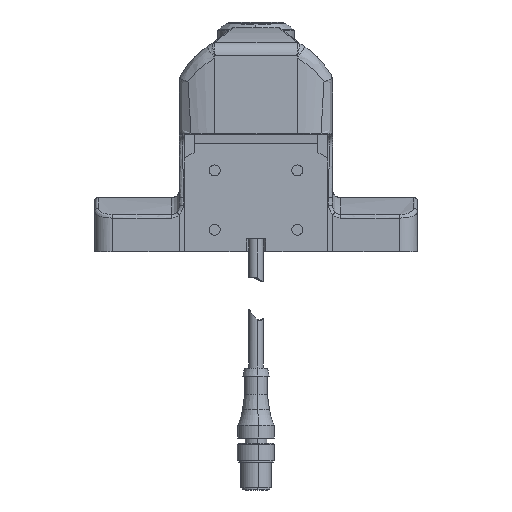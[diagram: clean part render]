
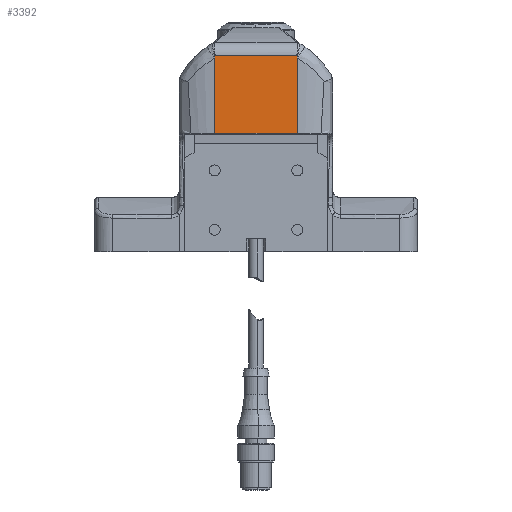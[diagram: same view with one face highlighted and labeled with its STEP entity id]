
A CAD part, left-side view. The second image highlights one B-rep face of the part: STEP entity #3392.
In plain terms, the highlighted planar face has unit normal (-1, 0, 0).
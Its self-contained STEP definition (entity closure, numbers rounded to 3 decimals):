
#4 = CARTESIAN_POINT ( 'NONE',  ( -26., 15.995, 30.781 ) ) ;
#132 = DIRECTION ( 'NONE',  ( 0., 0., 1. ) ) ;
#414 = DIRECTION ( 'NONE',  ( 0., -1., 0. ) ) ;
#625 = CARTESIAN_POINT ( 'NONE',  ( -26., -15.866, 31.5 ) ) ;
#741 = CARTESIAN_POINT ( 'NONE',  ( -26., -15.885, 31.367 ) ) ;
#1246 = EDGE_CURVE ( 'NONE', #11356, #13722, #14891, .T. ) ;
#1261 = CARTESIAN_POINT ( 'NONE',  ( -26., 15.889, 31.367 ) ) ;
#2344 = LINE ( 'NONE', #11087, #6291 ) ;
#2875 = EDGE_CURVE ( 'NONE', #18848, #21818, #9069, .T. ) ;
#3392 = ADVANCED_FACE ( 'NONE', ( #13946 ), #5419, .F. ) ;
#3568 = CARTESIAN_POINT ( 'NONE',  ( -26., 16., 1.5 ) ) ;
#4151 = ORIENTED_EDGE ( 'NONE', *, *, #14384, .T. ) ;
#5243 = LINE ( 'NONE', #3568, #7218 ) ;
#5419 = PLANE ( 'NONE',  #12869 ) ;
#5895 = CARTESIAN_POINT ( 'NONE',  ( -26., 16., 30.648 ) ) ;
#6145 = CARTESIAN_POINT ( 'NONE',  ( -26., 62.541, 31.5 ) ) ;
#6218 = CARTESIAN_POINT ( 'NONE',  ( -26., 16., 1.5 ) ) ;
#6291 = VECTOR ( 'NONE', #132, 1000. ) ;
#6409 = CARTESIAN_POINT ( 'NONE',  ( -26., 15.902, 31.303 ) ) ;
#7166 = CARTESIAN_POINT ( 'NONE',  ( -26., 16., 38.163 ) ) ;
#7218 = VECTOR ( 'NONE', #414, 1000. ) ;
#7697 = EDGE_LOOP ( 'NONE', ( #20365, #12797, #15917, #15296, #4151, #20386 ) ) ;
#8087 = CARTESIAN_POINT ( 'NONE',  ( -26., 15.895, 31.333 ) ) ;
#8299 = CARTESIAN_POINT ( 'NONE',  ( -26., 15.946, 31.09 ) ) ;
#8405 = CARTESIAN_POINT ( 'NONE',  ( -26., 15.977, 30.928 ) ) ;
#9069 = LINE ( 'NONE', #7166, #13221 ) ;
#9265 = CARTESIAN_POINT ( 'NONE',  ( -26., -15.973, 30.947 ) ) ;
#9780 = CARTESIAN_POINT ( 'NONE',  ( -26., 15.87, 31.474 ) ) ;
#9995 = EDGE_CURVE ( 'NONE', #13722, #14604, #16876, .T. ) ;
#10003 = CARTESIAN_POINT ( 'NONE',  ( -26., 15.946, 31.089 ) ) ;
#10031 = CARTESIAN_POINT ( 'NONE',  ( -26., -16., 1.5 ) ) ;
#11087 = CARTESIAN_POINT ( 'NONE',  ( -26., -16., 38.163 ) ) ;
#11356 = VERTEX_POINT ( 'NONE', #11575 ) ;
#11575 = CARTESIAN_POINT ( 'NONE',  ( -26., 15.866, 31.5 ) ) ;
#12260 = DIRECTION ( 'NONE',  ( 1., 0., 0. ) ) ;
#12797 = ORIENTED_EDGE ( 'NONE', *, *, #17910, .T. ) ;
#12869 = AXIS2_PLACEMENT_3D ( 'NONE', #17413, #12260, #17519 ) ;
#12986 = DIRECTION ( 'NONE',  ( 0., -1., 0. ) ) ;
#12988 = VECTOR ( 'NONE', #12986, 1000. ) ;
#13221 = VECTOR ( 'NONE', #14221, 1000. ) ;
#13248 = CARTESIAN_POINT ( 'NONE',  ( -26., 15.902, 31.302 ) ) ;
#13568 = CARTESIAN_POINT ( 'NONE',  ( -26., 15.945, 31.094 ) ) ;
#13722 = VERTEX_POINT ( 'NONE', #625 ) ;
#13946 = FACE_OUTER_BOUND ( 'NONE', #7697, .T. ) ;
#14221 = DIRECTION ( 'NONE',  ( 0., 0., 1. ) ) ;
#14384 = EDGE_CURVE ( 'NONE', #17388, #14604, #2344, .T. ) ;
#14422 = CARTESIAN_POINT ( 'NONE',  ( -26., -15.919, 31.231 ) ) ;
#14604 = VERTEX_POINT ( 'NONE', #18458 ) ;
#14891 = LINE ( 'NONE', #6145, #12988 ) ;
#14929 = CARTESIAN_POINT ( 'NONE',  ( -26., 15.899, 31.316 ) ) ;
#15037 = CARTESIAN_POINT ( 'NONE',  ( -26., 15.946, 31.09 ) ) ;
#15296 = ORIENTED_EDGE ( 'NONE', *, *, #16276, .T. ) ;
#15917 = ORIENTED_EDGE ( 'NONE', *, *, #2875, .F. ) ;
#16100 = CARTESIAN_POINT ( 'NONE',  ( -26., -16., 30.648 ) ) ;
#16276 = EDGE_CURVE ( 'NONE', #18848, #17388, #5243, .T. ) ;
#16439 = CARTESIAN_POINT ( 'NONE',  ( -26., -15.995, 30.8 ) ) ;
#16605 = CARTESIAN_POINT ( 'NONE',  ( -26., 15.877, 31.429 ) ) ;
#16819 = CARTESIAN_POINT ( 'NONE',  ( -26., 16., 30.648 ) ) ;
#16876 = B_SPLINE_CURVE_WITH_KNOTS ( 'NONE', 3,
 ( #17995, #741, #14422, #9265, #16439, #16100 ),
 .UNSPECIFIED., .F., .F.,
 ( 4, 2, 4 ),
 ( 0., 0.5, 1. ),
 .UNSPECIFIED. ) ;
#17033 = CARTESIAN_POINT ( 'NONE',  ( -26., 15.946, 31.089 ) ) ;
#17388 = VERTEX_POINT ( 'NONE', #10031 ) ;
#17413 = CARTESIAN_POINT ( 'NONE',  ( -26., 16., 1. ) ) ;
#17519 = DIRECTION ( 'NONE',  ( 0., 0., -1. ) ) ;
#17910 = EDGE_CURVE ( 'NONE', #11356, #21818, #18580, .T. ) ;
#17995 = CARTESIAN_POINT ( 'NONE',  ( -26., -15.866, 31.5 ) ) ;
#18272 = CARTESIAN_POINT ( 'NONE',  ( -26., 15.866, 31.5 ) ) ;
#18384 = CARTESIAN_POINT ( 'NONE',  ( -26., 15.933, 31.153 ) ) ;
#18458 = CARTESIAN_POINT ( 'NONE',  ( -26., -16., 30.648 ) ) ;
#18580 = B_SPLINE_CURVE_WITH_KNOTS ( 'NONE', 3,
 ( #18272, #9780, #16605, #1261, #8087, #14929, #21752, #6409, #13248, #20069, #18384, #21966, #13568, #18818, #15037, #10003, #17033, #8299, #8405, #4, #16819 ),
 .UNSPECIFIED., .F., .F.,
 ( 4, 1, 1, 1, 1, 2, 2, 1, 1, 1, 1, 1, 2, 2, 4 ),
 ( 0., 0.125, 0.187, 0.219, 0.234, 0.242, 0.25, 0.375, 0.437, 0.469, 0.484, 0.492, 0.496, 0.5, 1. ),
 .UNSPECIFIED. ) ;
#18818 = CARTESIAN_POINT ( 'NONE',  ( -26., 15.946, 31.091 ) ) ;
#18848 = VERTEX_POINT ( 'NONE', #6218 ) ;
#20069 = CARTESIAN_POINT ( 'NONE',  ( -26., 15.917, 31.23 ) ) ;
#20365 = ORIENTED_EDGE ( 'NONE', *, *, #1246, .F. ) ;
#20386 = ORIENTED_EDGE ( 'NONE', *, *, #9995, .F. ) ;
#21752 = CARTESIAN_POINT ( 'NONE',  ( -26., 15.901, 31.308 ) ) ;
#21818 = VERTEX_POINT ( 'NONE', #5895 ) ;
#21966 = CARTESIAN_POINT ( 'NONE',  ( -26., 15.942, 31.107 ) ) ;
